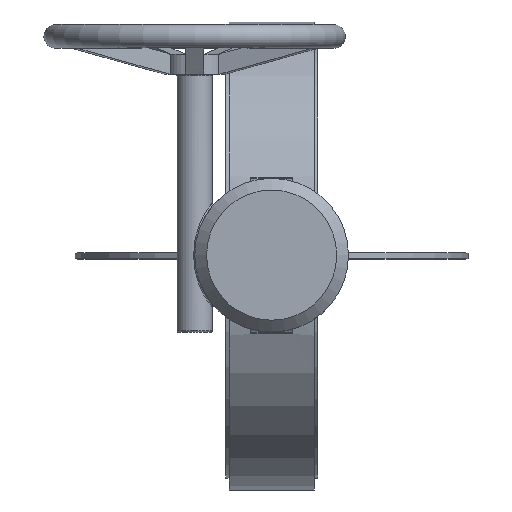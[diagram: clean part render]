
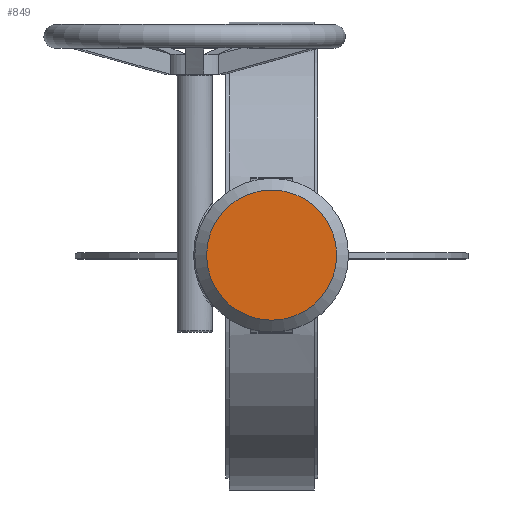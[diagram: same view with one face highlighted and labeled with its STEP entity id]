
A CAD part, top view. The second image highlights one B-rep face of the part: STEP entity #849.
In plain terms, the highlighted planar face has unit normal (0, 0, 1).
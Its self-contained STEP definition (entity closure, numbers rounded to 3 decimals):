
#849=ADVANCED_FACE('',(#2633),#2635,.T.);
#2633=FACE_BOUND('',#2634,.T.);
#2634=EDGE_LOOP('',(#3377));
#2635=PLANE('',#2636);
#2636=AXIS2_PLACEMENT_3D('',#2637,#2638,#2639);
#2637=CARTESIAN_POINT('',(0.,0.,407.));
#2638=DIRECTION('',(0.,0.,1.));
#2639=DIRECTION('',(-1.,0.,0.));
#3377=ORIENTED_EDGE('',*,*,#3747,.T.);
#3747=EDGE_CURVE('',#4163,#4163,#4164,.T.);
#4163=VERTEX_POINT('',#5902);
#4164=CIRCLE('',#5903,55.);
#5902=CARTESIAN_POINT('',(-55.,0.,407.));
#5903=AXIS2_PLACEMENT_3D('',#5904,#5905,#5906);
#5904=CARTESIAN_POINT('',(0.,0.,407.));
#5905=DIRECTION('',(0.,0.,1.));
#5906=DIRECTION('',(-1.,0.,0.));
